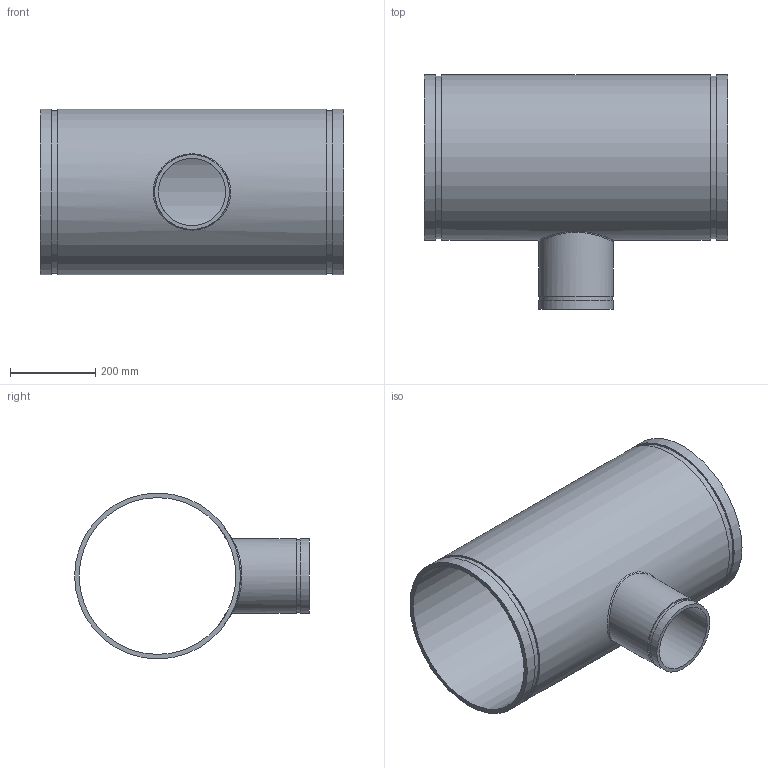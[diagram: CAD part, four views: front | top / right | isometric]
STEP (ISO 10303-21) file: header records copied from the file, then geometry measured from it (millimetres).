
FILE_DESCRIPTION(/* description */ ('VIC REDUCING TEE No 25-C','CAx-IF Rec.Pracs.---Representation and Presentation of Product Manufacturing Information (PMI)---4.0---2014-10-13'),/* implementation_level */ '2;1');
FILE_NAME(/* name */ 'C:\Users\Vjadhav\AppData\Roaming\Autodesk\ApplicationPlugins\Back Up\Victaulic_AWWA_Tee Reducing_No 25-C (DRG)\Victaulic_AWWA_Tee Reducing_No 25-C (DRG)_14.0x06.0 (350x150).stp',/* time_stamp */ '2020-08-18T18:18:05+06:00',/* author */ ('CORINNE GRAY'),/* organization */ ('Victaulic'),/* preprocessor_version */ 'ST-DEVELOPER v17.2',/* originating_system */ 'Autodesk Inventor 2019',/* authorisation */ '');
FILE_SCHEMA (('AP242_MANAGED_MODEL_BASED_3D_ENGINEERING_MIM_LF { 1 0 10303 442 1 1 4 }'));
Length unit declared in the file: inch
Products named in the file (1): 25C-14.0x06.0
Bounding box: 711.2 x 549.91 x 388.62 mm (x, y, z)
Volume: 9389654.4 mm3; surface area: 1880266.1 mm2
Topology: 1 solids, 1 shells, 20 faces, 44 edges, 33 vertices
Faces by surface type: cylinder 10, plane 9, bspline 1
Full cylindrical faces by diameter (mm): 157.988 x1, 169.062 x1, 175.26 x2, 367.284 x1, 380.213 x2, 388.62 x3
Entity records: 975 total; most frequent: CARTESIAN_POINT 351, DIRECTION 135, ORIENTED_EDGE 90, AXIS2_PLACEMENT_3D 62, EDGE_CURVE 45, VERTEX_POINT 34, EDGE_LOOP 31, CIRCLE 29
